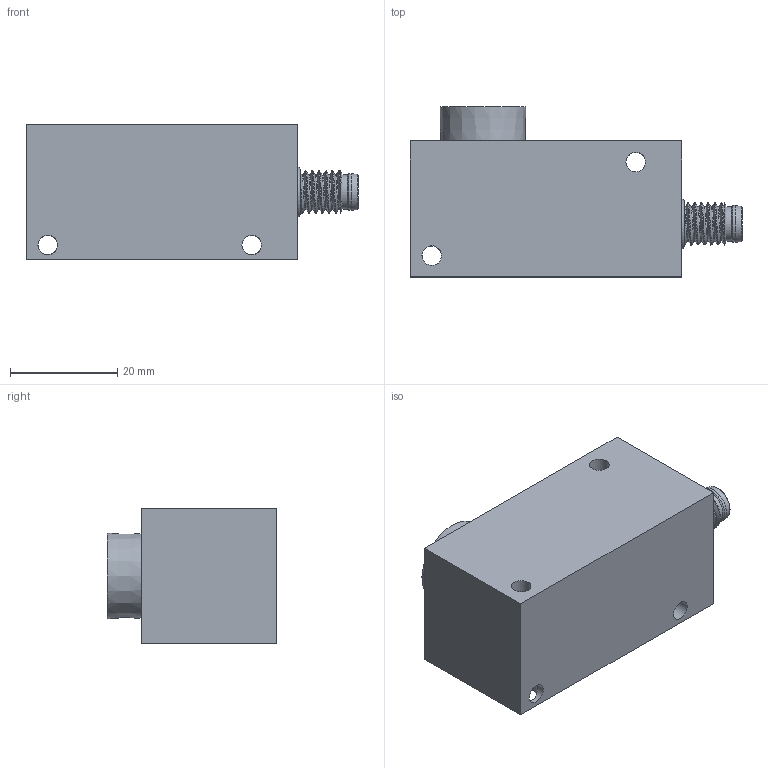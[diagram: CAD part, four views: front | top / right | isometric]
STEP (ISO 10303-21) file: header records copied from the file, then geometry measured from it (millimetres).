
FILE_DESCRIPTION(/* description */ (''),/* implementation_level */ '2;1');
FILE_NAME(/* name */ 'PEBX-SE-CUST-ASSY-WRAP.step',/* time_stamp */ '2024-06-28T14:52:52-05:00',/* author */ (''),/* organization */ (''),/* preprocessor_version */ 'ST-DEVELOPER v20',/* originating_system */ 'Autodesk Translation Framework v13.14.0.145',/* authorisation */ '');
FILE_SCHEMA (('AUTOMOTIVE_DESIGN { 1 0 10303 214 3 1 1 }'));
Length unit declared in the file: millimetre
Products named in the file (1): PEBX-CUST ASSY
Bounding box: 62.01 x 31.75 x 25.4 mm (x, y, z)
Volume: 32748.4 mm3; surface area: 9198.5 mm2
Topology: 1 solids, 8 shells, 826 faces, 2291 edges, 1524 vertices
Faces by surface type: bspline 594, plane 159, cylinder 45, cone 11, torus 11, sphere 6
Full cylindrical faces by diameter (mm): 0.7 x6, 3.658 x6, 4.75 x1, 6.121 x2, 6.446 x2, 6.5 x1, 6.85 x1, 6.9 x1, 7.866 x3
Entity records: 29766 total; most frequent: CARTESIAN_POINT 14202, ORIENTED_EDGE 4570, EDGE_CURVE 2285, DIRECTION 1640, VERTEX_POINT 1524, LINE 908, VECTOR 908, EDGE_LOOP 891
